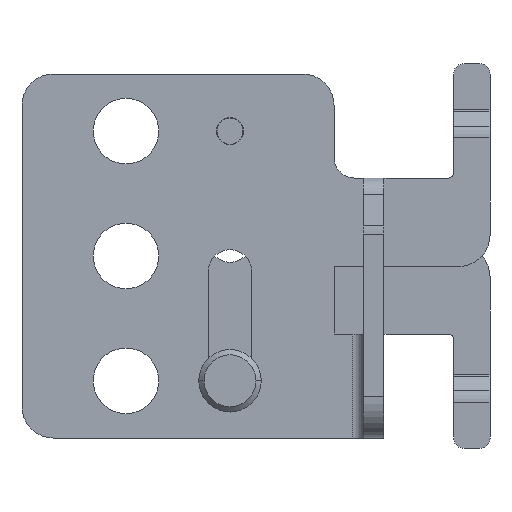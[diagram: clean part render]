
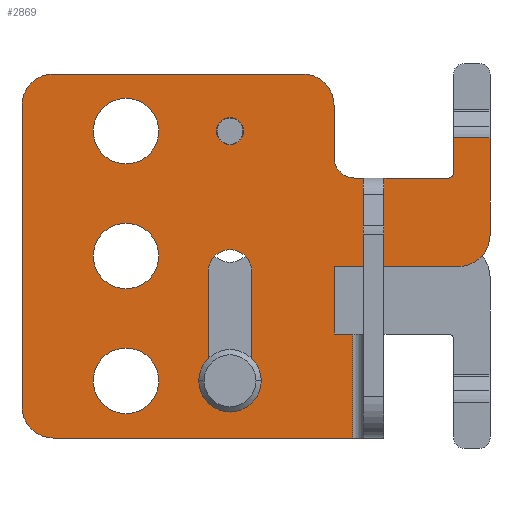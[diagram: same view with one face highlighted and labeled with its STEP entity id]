
A CAD part, left-side view. The second image highlights one B-rep face of the part: STEP entity #2869.
In plain terms, the highlighted planar face has unit normal (-1, 0, 0) as drawn and (1, 0, 0) by its records, which use the part's own axes.
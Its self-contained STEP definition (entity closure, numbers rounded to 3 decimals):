
#1924=CARTESIAN_POINT('',(2.,20.,0.));
#1925=DIRECTION('',(-1.,0.,0.));
#1926=DIRECTION('',(0.,0.,-1.));
#1927=AXIS2_PLACEMENT_3D('',#1924,#1925,#1926);
#1929=CARTESIAN_POINT('',(2.,20.,0.));
#1930=DIRECTION('',(-1.,0.,0.));
#1931=DIRECTION('',(0.,0.,1.));
#1932=AXIS2_PLACEMENT_3D('',#1929,#1930,#1931);
#1934=CARTESIAN_POINT('',(2.,20.,12.));
#1935=DIRECTION('',(-1.,0.,0.));
#1936=DIRECTION('',(0.,0.,-1.));
#1937=AXIS2_PLACEMENT_3D('',#1934,#1935,#1936);
#1939=CARTESIAN_POINT('',(2.,20.,12.));
#1940=DIRECTION('',(-1.,0.,0.));
#1941=DIRECTION('',(0.,0.,1.));
#1942=AXIS2_PLACEMENT_3D('',#1939,#1940,#1941);
#1944=CARTESIAN_POINT('',(2.,20.,-12.));
#1945=DIRECTION('',(-1.,0.,0.));
#1946=DIRECTION('',(0.,0.,-1.));
#1947=AXIS2_PLACEMENT_3D('',#1944,#1945,#1946);
#1949=CARTESIAN_POINT('',(2.,20.,-12.));
#1950=DIRECTION('',(-1.,0.,0.));
#1951=DIRECTION('',(0.,0.,1.));
#1952=AXIS2_PLACEMENT_3D('',#1949,#1950,#1951);
#1954=DIRECTION('',(0.,0.,-1.));
#1955=VECTOR('',#1954,10.5);
#1956=CARTESIAN_POINT('',(2.,12.1,12.));
#1957=LINE('',#1956,#1955);
#1958=CARTESIAN_POINT('',(2.,10.,12.));
#1959=DIRECTION('',(-1.,0.,0.));
#1960=DIRECTION('',(0.,-1.,0.));
#1961=AXIS2_PLACEMENT_3D('',#1958,#1959,#1960);
#1963=DIRECTION('',(0.,0.,1.));
#1964=VECTOR('',#1963,10.5);
#1965=CARTESIAN_POINT('',(2.,7.9,1.5));
#1966=LINE('',#1965,#1964);
#1967=CARTESIAN_POINT('',(2.,10.,1.5));
#1968=DIRECTION('',(-1.,0.,0.));
#1969=DIRECTION('',(0.,1.,0.));
#1970=AXIS2_PLACEMENT_3D('',#1967,#1968,#1969);
#1972=CARTESIAN_POINT('',(2.,10.,-12.));
#1973=DIRECTION('',(-1.,0.,0.));
#1974=DIRECTION('',(0.,0.,-1.));
#1975=AXIS2_PLACEMENT_3D('',#1972,#1973,#1974);
#1977=CARTESIAN_POINT('',(2.,10.,-12.));
#1978=DIRECTION('',(-1.,0.,0.));
#1979=DIRECTION('',(0.,0.,1.));
#1980=AXIS2_PLACEMENT_3D('',#1977,#1978,#1979);
#1982=DIRECTION('',(0.,0.,1.));
#1983=VECTOR('',#1982,10.);
#1984=CARTESIAN_POINT('',(2.,-1.8,7.5));
#1985=LINE('',#1984,#1983);
#1986=DIRECTION('',(0.,1.,0.));
#1987=VECTOR('',#1986,28.8);
#1988=CARTESIAN_POINT('',(2.,-1.8,17.5));
#1989=LINE('',#1988,#1987);
#1990=CARTESIAN_POINT('',(2.,27.,14.5));
#1991=DIRECTION('',(1.,0.,0.));
#1992=DIRECTION('',(0.,1.,0.));
#1993=AXIS2_PLACEMENT_3D('',#1990,#1991,#1992);
#1995=DIRECTION('',(0.,0.,1.));
#1996=VECTOR('',#1995,29.);
#1997=CARTESIAN_POINT('',(2.,30.,-14.5));
#1998=LINE('',#1997,#1996);
#1999=CARTESIAN_POINT('',(2.,27.,-14.5));
#2000=DIRECTION('',(1.,0.,0.));
#2001=DIRECTION('',(0.,0.,-1.));
#2002=AXIS2_PLACEMENT_3D('',#1999,#2000,#2001);
#2004=DIRECTION('',(0.,1.,0.));
#2005=VECTOR('',#2004,24.);
#2006=CARTESIAN_POINT('',(2.,3.,-17.5));
#2007=LINE('',#2006,#2005);
#2008=CARTESIAN_POINT('',(2.,3.,-14.5));
#2009=DIRECTION('',(1.,0.,0.));
#2010=DIRECTION('',(0.,-1.,0.));
#2011=AXIS2_PLACEMENT_3D('',#2008,#2009,#2010);
#2013=DIRECTION('',(0.,0.,-1.));
#2014=VECTOR('',#2013,5.);
#2015=CARTESIAN_POINT('',(2.,0.,-9.5));
#2016=LINE('',#2015,#2014);
#2017=DIRECTION('',(0.,1.,0.));
#2018=VECTOR('',#2017,9.);
#2019=CARTESIAN_POINT('',(2.,-11.,-7.5));
#2020=LINE('',#2019,#2018);
#2021=DIRECTION('',(0.,1.,0.));
#2022=VECTOR('',#2021,3.5);
#2023=CARTESIAN_POINT('',(2.,-15.,-11.382));
#2024=LINE('',#2023,#2022);
#2025=DIRECTION('',(0.,0.,-1.));
#2026=VECTOR('',#2025,9.382);
#2027=CARTESIAN_POINT('',(2.,-15.,-2.));
#2028=LINE('',#2027,#2026);
#2029=CARTESIAN_POINT('',(2.,-12.,-2.));
#2030=DIRECTION('',(1.,0.,0.));
#2031=DIRECTION('',(0.,0.,1.));
#2032=AXIS2_PLACEMENT_3D('',#2029,#2030,#2031);
#2034=DIRECTION('',(0.,-1.,0.));
#2035=VECTOR('',#2034,12.);
#2036=CARTESIAN_POINT('',(2.,0.,1.));
#2037=LINE('',#2036,#2035);
#2038=DIRECTION('',(0.,0.,-1.));
#2039=VECTOR('',#2038,6.5);
#2040=CARTESIAN_POINT('',(2.,0.,7.5));
#2041=LINE('',#2040,#2039);
#2109=DIRECTION('',(0.,1.,0.));
#2110=VECTOR('',#2109,1.8);
#2111=CARTESIAN_POINT('',(2.,-1.8,7.5));
#2112=LINE('',#2111,#2110);
#2167=CARTESIAN_POINT('',(2.,-2.,-9.5));
#2168=DIRECTION('',(-1.,0.,0.));
#2169=DIRECTION('',(0.,0.,1.));
#2170=AXIS2_PLACEMENT_3D('',#2167,#2168,#2169);
#2185=CARTESIAN_POINT('',(2.,-11.,-8.));
#2186=DIRECTION('',(-1.,0.,0.));
#2187=DIRECTION('',(0.,-1.,0.));
#2188=AXIS2_PLACEMENT_3D('',#2185,#2186,#2187);
#2207=DIRECTION('',(0.,0.,1.));
#2208=VECTOR('',#2207,3.382);
#2209=CARTESIAN_POINT('',(2.,-11.5,-11.382));
#2210=LINE('',#2209,#2208);
#2492=CARTESIAN_POINT('',(2.,20.,-3.15));
#2493=CARTESIAN_POINT('',(2.,20.,3.15));
#2494=VERTEX_POINT('',#2492);
#2495=VERTEX_POINT('',#2493);
#2496=CARTESIAN_POINT('',(2.,20.,8.85));
#2497=CARTESIAN_POINT('',(2.,20.,15.15));
#2498=VERTEX_POINT('',#2496);
#2499=VERTEX_POINT('',#2497);
#2500=CARTESIAN_POINT('',(2.,20.,-15.15));
#2501=CARTESIAN_POINT('',(2.,20.,-8.85));
#2502=VERTEX_POINT('',#2500);
#2503=VERTEX_POINT('',#2501);
#2505=CARTESIAN_POINT('',(2.,0.,1.));
#2507=VERTEX_POINT('',#2505);
#2516=CARTESIAN_POINT('',(2.,12.1,12.));
#2517=CARTESIAN_POINT('',(2.,12.1,1.5));
#2518=VERTEX_POINT('',#2516);
#2519=VERTEX_POINT('',#2517);
#2520=CARTESIAN_POINT('',(2.,7.9,1.5));
#2521=VERTEX_POINT('',#2520);
#2522=CARTESIAN_POINT('',(2.,7.9,12.));
#2523=VERTEX_POINT('',#2522);
#2528=CARTESIAN_POINT('',(2.,10.,-13.3));
#2529=CARTESIAN_POINT('',(2.,10.,-10.7));
#2530=VERTEX_POINT('',#2528);
#2531=VERTEX_POINT('',#2529);
#2534=CARTESIAN_POINT('',(2.,-12.,1.));
#2535=VERTEX_POINT('',#2534);
#2540=CARTESIAN_POINT('',(2.,30.,14.5));
#2541=VERTEX_POINT('',#2540);
#2542=CARTESIAN_POINT('',(2.,27.,17.5));
#2543=VERTEX_POINT('',#2542);
#2548=CARTESIAN_POINT('',(2.,27.,-17.5));
#2549=VERTEX_POINT('',#2548);
#2550=CARTESIAN_POINT('',(2.,30.,-14.5));
#2551=VERTEX_POINT('',#2550);
#2554=CARTESIAN_POINT('',(2.,-15.,-2.));
#2555=VERTEX_POINT('',#2554);
#2580=CARTESIAN_POINT('',(2.,-11.5,-11.382));
#2582=VERTEX_POINT('',#2580);
#2586=CARTESIAN_POINT('',(2.,-15.,-11.382));
#2587=VERTEX_POINT('',#2586);
#2589=CARTESIAN_POINT('',(2.,-11.,-7.5));
#2591=VERTEX_POINT('',#2589);
#2593=CARTESIAN_POINT('',(2.,-11.5,-8.));
#2595=VERTEX_POINT('',#2593);
#2597=CARTESIAN_POINT('',(2.,0.,-9.5));
#2599=VERTEX_POINT('',#2597);
#2601=CARTESIAN_POINT('',(2.,-2.,-7.5));
#2603=VERTEX_POINT('',#2601);
#2624=CARTESIAN_POINT('',(2.,0.,-14.5));
#2625=VERTEX_POINT('',#2624);
#2626=CARTESIAN_POINT('',(2.,3.,-17.5));
#2627=VERTEX_POINT('',#2626);
#2629=CARTESIAN_POINT('',(2.,0.,7.5));
#2631=VERTEX_POINT('',#2629);
#2668=CARTESIAN_POINT('',(2.,-1.8,7.5));
#2669=CARTESIAN_POINT('',(2.,-1.8,17.5));
#2670=VERTEX_POINT('',#2668);
#2671=VERTEX_POINT('',#2669);
#2794=CARTESIAN_POINT('',(2.,0.,0.));
#2795=DIRECTION('',(1.,0.,0.));
#2796=DIRECTION('',(0.,-1.,0.));
#2797=AXIS2_PLACEMENT_3D('',#2794,#2795,#2796);
#2798=PLANE('',#2797);
#2800=ORIENTED_EDGE('',*,*,#2799,.T.);
#2802=ORIENTED_EDGE('',*,*,#2801,.T.);
#2804=ORIENTED_EDGE('',*,*,#2803,.F.);
#2806=ORIENTED_EDGE('',*,*,#2805,.F.);
#2808=ORIENTED_EDGE('',*,*,#2807,.F.);
#2810=ORIENTED_EDGE('',*,*,#2809,.F.);
#2812=ORIENTED_EDGE('',*,*,#2811,.F.);
#2814=ORIENTED_EDGE('',*,*,#2813,.F.);
#2816=ORIENTED_EDGE('',*,*,#2815,.F.);
#2818=ORIENTED_EDGE('',*,*,#2817,.F.);
#2820=ORIENTED_EDGE('',*,*,#2819,.F.);
#2822=ORIENTED_EDGE('',*,*,#2821,.F.);
#2824=ORIENTED_EDGE('',*,*,#2823,.F.);
#2826=ORIENTED_EDGE('',*,*,#2825,.F.);
#2828=ORIENTED_EDGE('',*,*,#2827,.F.);
#2830=ORIENTED_EDGE('',*,*,#2829,.F.);
#2832=ORIENTED_EDGE('',*,*,#2831,.F.);
#2834=ORIENTED_EDGE('',*,*,#2833,.F.);
#2835=EDGE_LOOP('',(#2800,#2802,#2804,#2806,#2808,#2810,#2812,#2814,#2816,#2818,
#2820,#2822,#2824,#2826,#2828,#2830,#2832,#2834));
#2836=FACE_OUTER_BOUND('',#2835,.F.);
#2837=ORIENTED_EDGE('',*,*,#2774,.F.);
#2838=ORIENTED_EDGE('',*,*,#2788,.F.);
#2839=EDGE_LOOP('',(#2837,#2838));
#2840=FACE_BOUND('',#2839,.F.);
#2842=ORIENTED_EDGE('',*,*,#2841,.F.);
#2844=ORIENTED_EDGE('',*,*,#2843,.F.);
#2845=EDGE_LOOP('',(#2842,#2844));
#2846=FACE_BOUND('',#2845,.F.);
#2848=ORIENTED_EDGE('',*,*,#2847,.F.);
#2850=ORIENTED_EDGE('',*,*,#2849,.F.);
#2851=EDGE_LOOP('',(#2848,#2850));
#2852=FACE_BOUND('',#2851,.F.);
#2854=ORIENTED_EDGE('',*,*,#2853,.F.);
#2856=ORIENTED_EDGE('',*,*,#2855,.F.);
#2858=ORIENTED_EDGE('',*,*,#2857,.F.);
#2860=ORIENTED_EDGE('',*,*,#2859,.F.);
#2861=EDGE_LOOP('',(#2854,#2856,#2858,#2860));
#2862=FACE_BOUND('',#2861,.F.);
#2864=ORIENTED_EDGE('',*,*,#2863,.F.);
#2866=ORIENTED_EDGE('',*,*,#2865,.F.);
#2867=EDGE_LOOP('',(#2864,#2866));
#2868=FACE_BOUND('',#2867,.F.);
#2869=ADVANCED_FACE('',(#2836,#2840,#2846,#2852,#2862,#2868),#2798,.T.);
#1928=CIRCLE('',#1927,3.15);
#1933=CIRCLE('',#1932,3.15);
#1938=CIRCLE('',#1937,3.15);
#1943=CIRCLE('',#1942,3.15);
#1948=CIRCLE('',#1947,3.15);
#1953=CIRCLE('',#1952,3.15);
#1962=CIRCLE('',#1961,2.1);
#1971=CIRCLE('',#1970,2.1);
#1976=CIRCLE('',#1975,1.3);
#1981=CIRCLE('',#1980,1.3);
#1994=CIRCLE('',#1993,3.);
#2003=CIRCLE('',#2002,3.);
#2012=CIRCLE('',#2011,3.);
#2033=CIRCLE('',#2032,3.);
#2171=CIRCLE('',#2170,2.);
#2189=CIRCLE('',#2188,0.5);
#2774=EDGE_CURVE('',#2494,#2495,#1928,.T.);
#2788=EDGE_CURVE('',#2495,#2494,#1933,.T.);
#2799=EDGE_CURVE('',#2670,#2671,#1985,.T.);
#2801=EDGE_CURVE('',#2671,#2543,#1989,.T.);
#2803=EDGE_CURVE('',#2541,#2543,#1994,.T.);
#2805=EDGE_CURVE('',#2551,#2541,#1998,.T.);
#2807=EDGE_CURVE('',#2549,#2551,#2003,.T.);
#2809=EDGE_CURVE('',#2627,#2549,#2007,.T.);
#2811=EDGE_CURVE('',#2625,#2627,#2012,.T.);
#2813=EDGE_CURVE('',#2599,#2625,#2016,.T.);
#2815=EDGE_CURVE('',#2603,#2599,#2171,.T.);
#2817=EDGE_CURVE('',#2591,#2603,#2020,.T.);
#2819=EDGE_CURVE('',#2595,#2591,#2189,.T.);
#2821=EDGE_CURVE('',#2582,#2595,#2210,.T.);
#2823=EDGE_CURVE('',#2587,#2582,#2024,.T.);
#2825=EDGE_CURVE('',#2555,#2587,#2028,.T.);
#2827=EDGE_CURVE('',#2535,#2555,#2033,.T.);
#2829=EDGE_CURVE('',#2507,#2535,#2037,.T.);
#2831=EDGE_CURVE('',#2631,#2507,#2041,.T.);
#2833=EDGE_CURVE('',#2670,#2631,#2112,.T.);
#2841=EDGE_CURVE('',#2498,#2499,#1938,.T.);
#2843=EDGE_CURVE('',#2499,#2498,#1943,.T.);
#2847=EDGE_CURVE('',#2502,#2503,#1948,.T.);
#2849=EDGE_CURVE('',#2503,#2502,#1953,.T.);
#2853=EDGE_CURVE('',#2518,#2519,#1957,.T.);
#2855=EDGE_CURVE('',#2523,#2518,#1962,.T.);
#2857=EDGE_CURVE('',#2521,#2523,#1966,.T.);
#2859=EDGE_CURVE('',#2519,#2521,#1971,.T.);
#2863=EDGE_CURVE('',#2530,#2531,#1976,.T.);
#2865=EDGE_CURVE('',#2531,#2530,#1981,.T.);
